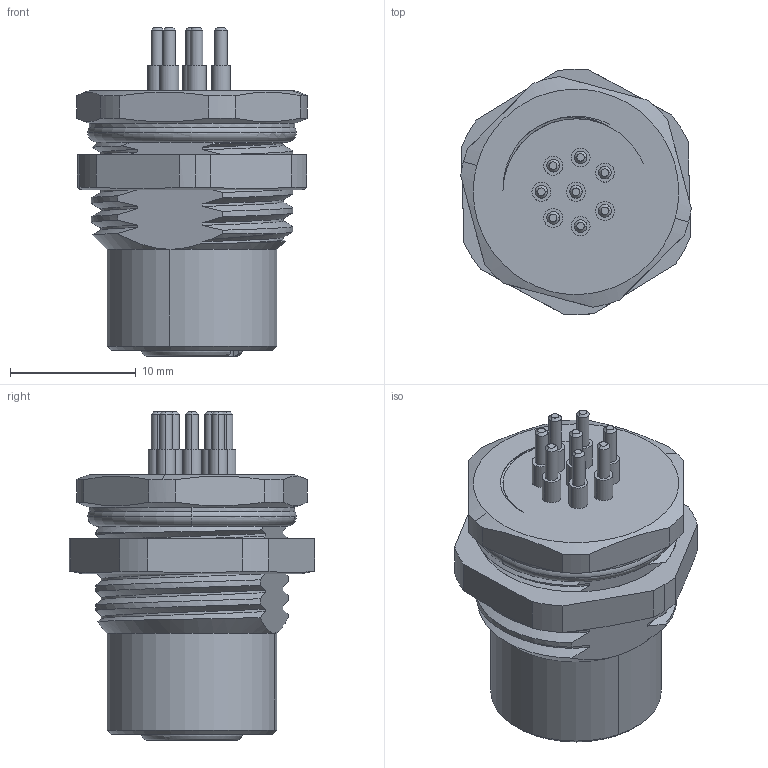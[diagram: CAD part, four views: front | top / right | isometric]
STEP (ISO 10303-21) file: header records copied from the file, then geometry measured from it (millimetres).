
FILE_DESCRIPTION (( 'STEP AP203' ), '1' );
FILE_NAME ('64SC21P.STEP', '2023-10-24T09:14:12', ( 'ADMIN' ), ( '' ), 'SwSTEP 2.0', 'SolidWorks 2016', '' );
FILE_SCHEMA (( 'CONFIG_CONTROL_DESIGN' ));
Length unit declared in the file: millimetre
Products named in the file (1): 64SC21P
Bounding box: 18.31 x 19.5 x 26.1 mm (x, y, z)
Volume: 3136.9 mm3; surface area: 4293.7 mm2
Topology: 2 solids, 11 shells, 360 faces, 892 edges, 591 vertices
Faces by surface type: cylinder 155, plane 82, cone 59, bspline 54, torus 10
Entity records: 33685 total; most frequent: CARTESIAN_POINT 25615, ORIENTED_EDGE 1784, DIRECTION 1449, EDGE_CURVE 892, AXIS2_PLACEMENT_3D 608, VERTEX_POINT 591, EDGE_LOOP 401, FACE_OUTER_BOUND 360
